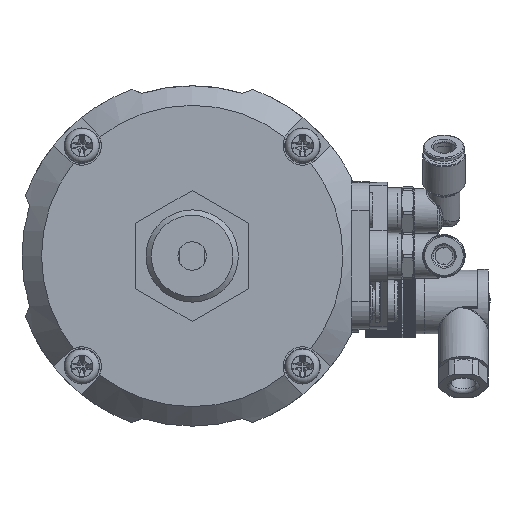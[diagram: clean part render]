
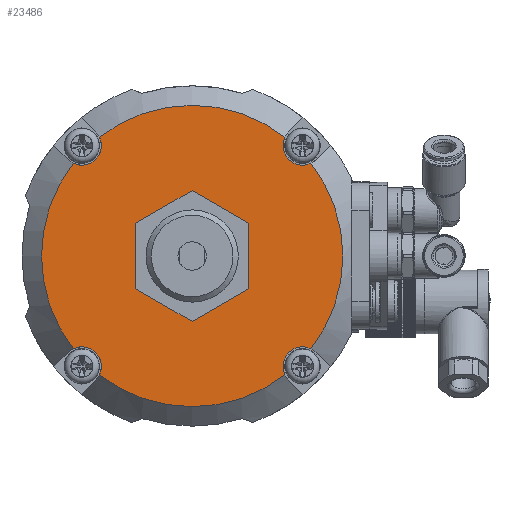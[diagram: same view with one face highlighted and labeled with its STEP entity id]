
A CAD part, front view. The second image highlights one B-rep face of the part: STEP entity #23486.
In plain terms, the highlighted planar face has unit normal (0, -1, 0).
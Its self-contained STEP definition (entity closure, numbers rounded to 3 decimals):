
#23486=ADVANCED_FACE('',(#48153,#48155),#48157,.T.);
#48153=FACE_BOUND('',#48154,.T.);
#48154=EDGE_LOOP('',(#68355,#68356,#68357,#68358,#68359,#68360,#68361,#68362));
#48155=FACE_BOUND('',#48156,.T.);
#48156=EDGE_LOOP('',(#68363,#68364,#68365,#68366,#68367,#68368));
#48157=PLANE('',#48158);
#48158=AXIS2_PLACEMENT_3D('',#48159,#48160,#48161);
#48159=CARTESIAN_POINT('',(0.,-139.,0.));
#48160=DIRECTION('',(0.,-1.,0.));
#48161=DIRECTION('',(0.,0.,1.));
#68355=ORIENTED_EDGE('',*,*,#78568,.T.);
#68356=ORIENTED_EDGE('',*,*,#78569,.T.);
#68357=ORIENTED_EDGE('',*,*,#78570,.T.);
#68358=ORIENTED_EDGE('',*,*,#78490,.T.);
#68359=ORIENTED_EDGE('',*,*,#78566,.T.);
#68360=ORIENTED_EDGE('',*,*,#78559,.T.);
#68361=ORIENTED_EDGE('',*,*,#78571,.T.);
#68362=ORIENTED_EDGE('',*,*,#78572,.T.);
#68363=ORIENTED_EDGE('',*,*,#78573,.F.);
#68364=ORIENTED_EDGE('',*,*,#78574,.F.);
#68365=ORIENTED_EDGE('',*,*,#78575,.F.);
#68366=ORIENTED_EDGE('',*,*,#78576,.F.);
#68367=ORIENTED_EDGE('',*,*,#78577,.F.);
#68368=ORIENTED_EDGE('',*,*,#78578,.F.);
#78490=EDGE_CURVE('',#92197,#92195,#92198,.F.);
#78559=EDGE_CURVE('',#92317,#92315,#92318,.F.);
#78566=EDGE_CURVE('',#92195,#92317,#92328,.F.);
#78568=EDGE_CURVE('',#92330,#92331,#92332,.F.);
#78569=EDGE_CURVE('',#92331,#92333,#92334,.F.);
#78570=EDGE_CURVE('',#92333,#92197,#92335,.F.);
#78571=EDGE_CURVE('',#92315,#92336,#92337,.F.);
#78572=EDGE_CURVE('',#92336,#92330,#92338,.F.);
#78573=EDGE_CURVE('',#92339,#92340,#92341,.T.);
#78574=EDGE_CURVE('',#92342,#92339,#92343,.T.);
#78575=EDGE_CURVE('',#92344,#92342,#92345,.T.);
#78576=EDGE_CURVE('',#92346,#92344,#92347,.T.);
#78577=EDGE_CURVE('',#92348,#92346,#92349,.T.);
#78578=EDGE_CURVE('',#92340,#92348,#92350,.T.);
#92195=VERTEX_POINT('',#142878);
#92197=VERTEX_POINT('',#142898);
#92198=CIRCLE('',#142899,42.5);
#92315=VERTEX_POINT('',#143264);
#92317=VERTEX_POINT('',#143284);
#92318=CIRCLE('',#143285,42.5);
#92328=CIRCLE('',#143330,5.5);
#92330=VERTEX_POINT('',#143337);
#92331=VERTEX_POINT('',#143338);
#92332=CIRCLE('',#143339,5.5);
#92333=VERTEX_POINT('',#143343);
#92334=CIRCLE('',#143344,42.5);
#92335=CIRCLE('',#143348,5.5);
#92336=VERTEX_POINT('',#143352);
#92337=CIRCLE('',#143353,5.5);
#92338=CIRCLE('',#143357,42.5);
#92339=VERTEX_POINT('',#143361);
#92340=VERTEX_POINT('',#143362);
#92341=LINE('',#143363,#143364);
#92342=VERTEX_POINT('',#143366);
#92343=LINE('',#143367,#143368);
#92344=VERTEX_POINT('',#143370);
#92345=LINE('',#143371,#143372);
#92346=VERTEX_POINT('',#143374);
#92347=LINE('',#143375,#143376);
#92348=VERTEX_POINT('',#143378);
#92349=LINE('',#143379,#143380);
#92350=LINE('',#143382,#143383);
#142878=CARTESIAN_POINT('',(33.497,-139.,26.157));
#142898=CARTESIAN_POINT('',(33.497,-139.,-26.157));
#142899=AXIS2_PLACEMENT_3D('',#142900,#142901,#142902);
#142900=CARTESIAN_POINT('',(0.,-139.,0.));
#142901=DIRECTION('',(0.,1.,0.));
#142902=DIRECTION('',(0.788,0.,0.615));
#143264=CARTESIAN_POINT('',(-26.157,-139.,33.497));
#143284=CARTESIAN_POINT('',(26.157,-139.,33.497));
#143285=AXIS2_PLACEMENT_3D('',#143286,#143287,#143288);
#143286=CARTESIAN_POINT('',(0.,-139.,0.));
#143287=DIRECTION('',(0.,1.,0.));
#143288=DIRECTION('',(-0.615,0.,0.788));
#143330=AXIS2_PLACEMENT_3D('',#143331,#143332,#143333);
#143331=CARTESIAN_POINT('',(31.113,-139.,31.113));
#143332=DIRECTION('',(0.,-1.,0.));
#143333=DIRECTION('',(-0.901,0.,0.434));
#143337=CARTESIAN_POINT('',(-33.497,-139.,-26.157));
#143338=CARTESIAN_POINT('',(-26.157,-139.,-33.497));
#143339=AXIS2_PLACEMENT_3D('',#143340,#143341,#143342);
#143340=CARTESIAN_POINT('',(-31.113,-139.,-31.113));
#143341=DIRECTION('',(0.,-1.,0.));
#143342=DIRECTION('',(0.901,0.,-0.434));
#143343=CARTESIAN_POINT('',(26.157,-139.,-33.497));
#143344=AXIS2_PLACEMENT_3D('',#143345,#143346,#143347);
#143345=CARTESIAN_POINT('',(0.,-139.,0.));
#143346=DIRECTION('',(0.,1.,0.));
#143347=DIRECTION('',(0.615,0.,-0.788));
#143348=AXIS2_PLACEMENT_3D('',#143349,#143350,#143351);
#143349=CARTESIAN_POINT('',(31.113,-139.,-31.113));
#143350=DIRECTION('',(0.,-1.,0.));
#143351=DIRECTION('',(0.434,0.,0.901));
#143352=CARTESIAN_POINT('',(-33.497,-139.,26.157));
#143353=AXIS2_PLACEMENT_3D('',#143354,#143355,#143356);
#143354=CARTESIAN_POINT('',(-31.113,-139.,31.113));
#143355=DIRECTION('',(0.,-1.,0.));
#143356=DIRECTION('',(-0.434,0.,-0.901));
#143357=AXIS2_PLACEMENT_3D('',#143358,#143359,#143360);
#143358=CARTESIAN_POINT('',(0.,-139.,0.));
#143359=DIRECTION('',(0.,1.,0.));
#143360=DIRECTION('',(-0.788,0.,-0.615));
#143361=CARTESIAN_POINT('',(0.,-139.,-18.475));
#143362=CARTESIAN_POINT('',(16.,-139.,-9.238));
#143363=CARTESIAN_POINT('',(0.,-139.,-18.475));
#143364=VECTOR('',#143365,1.);
#143365=DIRECTION('',(0.866,0.,0.5));
#143366=CARTESIAN_POINT('',(-16.,-139.,-9.238));
#143367=CARTESIAN_POINT('',(-16.,-139.,-9.238));
#143368=VECTOR('',#143369,1.);
#143369=DIRECTION('',(0.866,0.,-0.5));
#143370=CARTESIAN_POINT('',(-16.,-139.,9.238));
#143371=CARTESIAN_POINT('',(-16.,-139.,9.238));
#143372=VECTOR('',#143373,1.);
#143373=DIRECTION('',(0.,0.,-1.));
#143374=CARTESIAN_POINT('',(0.,-139.,18.475));
#143375=CARTESIAN_POINT('',(0.,-139.,18.475));
#143376=VECTOR('',#143377,1.);
#143377=DIRECTION('',(-0.866,0.,-0.5));
#143378=CARTESIAN_POINT('',(16.,-139.,9.238));
#143379=CARTESIAN_POINT('',(16.,-139.,9.238));
#143380=VECTOR('',#143381,1.);
#143381=DIRECTION('',(-0.866,0.,0.5));
#143382=CARTESIAN_POINT('',(16.,-139.,-9.238));
#143383=VECTOR('',#143384,1.);
#143384=DIRECTION('',(0.,0.,1.));
